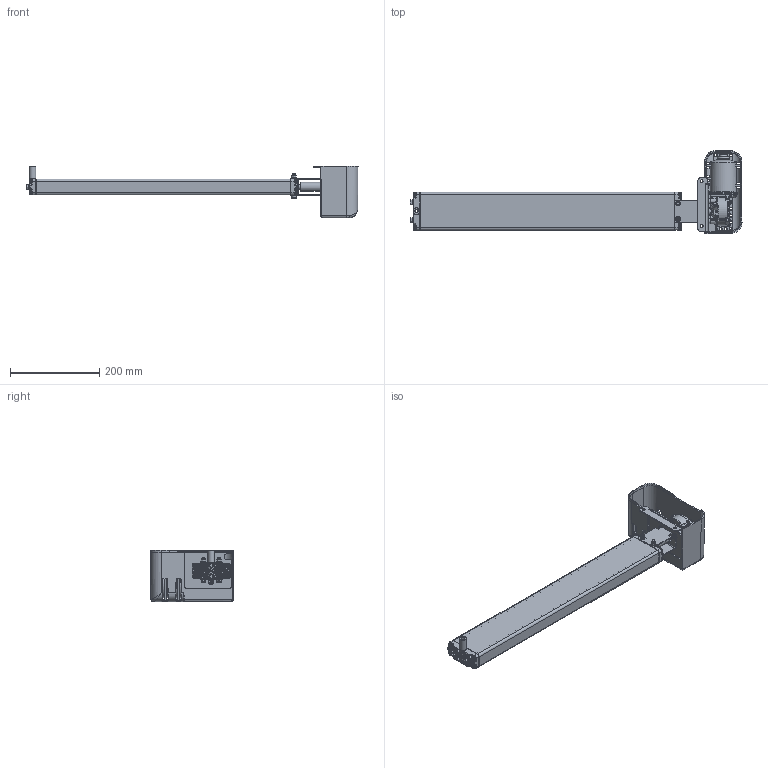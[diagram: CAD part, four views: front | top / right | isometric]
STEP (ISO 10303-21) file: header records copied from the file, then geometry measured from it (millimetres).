
FILE_DESCRIPTION(/* description */ ('Unknown'),/* implementation_level */ '2;1');
FILE_NAME(/* name */ '3X0.20057 Pumpe PA 2670 W mit Antrieb',/* time_stamp */ '2016-08-10T16:44:23+02:00',/* author */ ('Unknown'),/* organization */ ('Unknown'),/* preprocessor_version */ 'ST-DEVELOPER v16.7',/* originating_system */ 'DEX',/* authorisation */ $);
FILE_SCHEMA (('AUTOMOTIVE_DESIGN {1 0 10303 214 3 1 1}'));
Products named in the file (30): 100.20130; 115.00044; 125.00046; 142.00021; 125.00021; 115.00003; 142.00013; 125.00144; 122.00040; 126.00002; 119.00024; 126.00001; 127.00202; 127.00200; 127.00029; 124.00090; Getriebe; Ring; Schraube; Stator; Abdeckplatte; Antriebswelle; 128.00051; 123.00030; 142.00018; 142.00019; 142.00036; 142.00131; 123.00029; 142.00057
Assembly tree (42 placements, depth 3):
  100.20130
    115.00044  x2
      125.00046
      142.00021
      125.00021
      115.00003
    142.00013  x8
    125.00144
    122.00040
    126.00002
    119.00024
    126.00001
    127.00202
      127.00200
      127.00029
    124.00090
      Getriebe
      Ring
      Schraube
      Stator
      Abdeckplatte
      Antriebswelle
    128.00051
    123.00030
    142.00018  x2
    142.00019  x2
    142.00036  x2
    142.00131  x3
    123.00029
    142.00057
Bounding box: 743.42 x 186.04 x 115.45 mm (x, y, z)
Volume: 1037660.6 mm3; surface area: 596590.7 mm2
Topology: 40 solids, 40 shells, 4148 faces, 10487 edges, 6361 vertices
Faces by surface type: plane 1169, bspline 1140, cylinder 1132, cone 425, torus 196, sphere 86
Full cylindrical faces by diameter (mm): 2.5 x4, 3.2 x4, 3.5 x2, 3.9 x5, 4.1 x2, 4.2 x4, 4.4 x5, 4.5 x1, 4.917 x2, 5 x8, 5.5 x5, 6 x6, 6.4 x2, 6.8 x9, 6.917 x4, 7 x1, 8 x6, 8.5 x2, 9 x2, 9.5 x1, 9.8 x8, 10 x8, 10.3 x1, 10.32 x1, 10.4 x1, 11 x5, 14 x2, 15 x1, 17 x1, 17.3 x2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
Entity records: 169163 total; most frequent: CARTESIAN_POINT 89287, ORIENTED_EDGE 16600, DIRECTION 12162, EDGE_CURVE 8300, VERTEX_POINT 5374, AXIS2_PLACEMENT_3D 4821, FACE_BOUND 4048, EDGE_LOOP 4044
